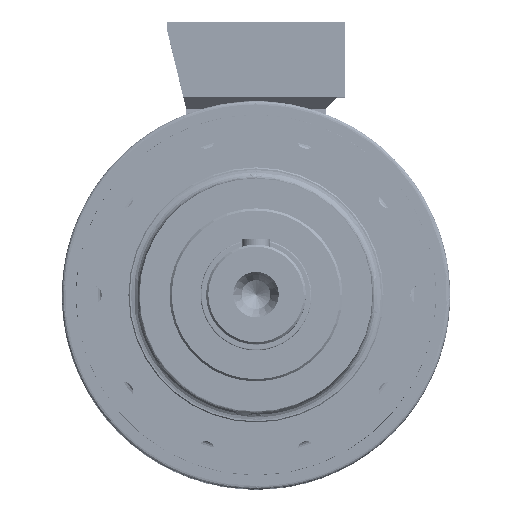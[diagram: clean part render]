
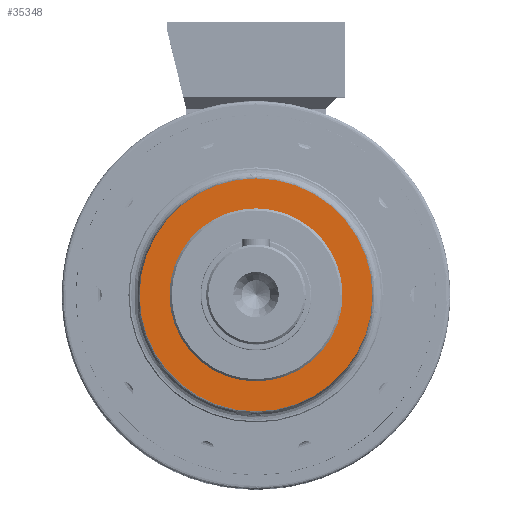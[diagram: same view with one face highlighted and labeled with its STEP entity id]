
A CAD part, top view. The second image highlights one B-rep face of the part: STEP entity #35348.
In plain terms, the highlighted planar face has unit normal (0, 0, 1).
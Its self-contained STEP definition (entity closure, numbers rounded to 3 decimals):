
#1173 = EDGE_CURVE ( 'NONE', #16508, #16466, #96875, .T. ) ;
#1205 = EDGE_CURVE ( 'NONE', #16430, #16487, #96987, .T. ) ;
#1456 = ORIENTED_EDGE ( 'NONE', *, *, #1173, .T. ) ;
#1486 = ORIENTED_EDGE ( 'NONE', *, *, #113242, .F. ) ;
#1535 = ORIENTED_EDGE ( 'NONE', *, *, #113151, .T. ) ;
#1546 = ORIENTED_EDGE ( 'NONE', *, *, #1205, .F. ) ;
#10984 = CIRCLE ( 'NONE', #136617, 78. ) ;
#11170 = CIRCLE ( 'NONE', #136647, 105. ) ;
#16430 = VERTEX_POINT ( 'NONE', #59236 ) ;
#16466 = VERTEX_POINT ( 'NONE', #59311 ) ;
#16487 = VERTEX_POINT ( 'NONE', #59316 ) ;
#16508 = VERTEX_POINT ( 'NONE', #59463 ) ;
#18848 = DIRECTION ( 'NONE',  ( 0., -1., 0. ) ) ;
#18858 = DIRECTION ( 'NONE',  ( 0., 0., 1. ) ) ;
#18870 = CARTESIAN_POINT ( 'NONE',  ( 0., 105., 181. ) ) ;
#18876 = PLANE ( 'NONE',  #81703 ) ;
#24760 = FACE_OUTER_BOUND ( 'NONE', #45144, .T. ) ;
#24764 = FACE_BOUND ( 'NONE', #45297, .T. ) ;
#28813 = DIRECTION ( 'NONE',  ( 0., 0., -1. ) ) ;
#28857 = CARTESIAN_POINT ( 'NONE',  ( 0., 0., 181. ) ) ;
#29120 = DIRECTION ( 'NONE',  ( 0., 1., 0. ) ) ;
#29460 = CARTESIAN_POINT ( 'NONE',  ( 0., 0., 181. ) ) ;
#29504 = DIRECTION ( 'NONE',  ( 0., 0., -1. ) ) ;
#29522 = DIRECTION ( 'NONE',  ( 0., 1., 0. ) ) ;
#35348 = ADVANCED_FACE ( 'NONE', ( #24760, #24764 ), #18876, .T. ) ;
#45144 = EDGE_LOOP ( 'NONE', ( #1486, #1546 ) ) ;
#45297 = EDGE_LOOP ( 'NONE', ( #1535, #1456 ) ) ;
#55134 = DIRECTION ( 'NONE',  ( 0., 1., 0. ) ) ;
#55186 = CARTESIAN_POINT ( 'NONE',  ( 0., 0., 181. ) ) ;
#55229 = DIRECTION ( 'NONE',  ( 0., 0., -1. ) ) ;
#56976 = DIRECTION ( 'NONE',  ( 0., 0., -1. ) ) ;
#56988 = DIRECTION ( 'NONE',  ( 0., 1., 0. ) ) ;
#56993 = CARTESIAN_POINT ( 'NONE',  ( 0., 0., 181. ) ) ;
#59236 = CARTESIAN_POINT ( 'NONE',  ( 0., -105., 181. ) ) ;
#59311 = CARTESIAN_POINT ( 'NONE',  ( 0., 78., 181. ) ) ;
#59316 = CARTESIAN_POINT ( 'NONE',  ( 0., 105., 181. ) ) ;
#59463 = CARTESIAN_POINT ( 'NONE',  ( 0., -78., 181. ) ) ;
#81703 = AXIS2_PLACEMENT_3D ( 'NONE', #18870, #18858, #18848 ) ;
#96875 = CIRCLE ( 'NONE', #174646, 78. ) ;
#96987 = CIRCLE ( 'NONE', #174795, 105. ) ;
#113151 = EDGE_CURVE ( 'NONE', #16466, #16508, #10984, .T. ) ;
#113242 = EDGE_CURVE ( 'NONE', #16487, #16430, #11170, .T. ) ;
#136617 = AXIS2_PLACEMENT_3D ( 'NONE', #28857, #28813, #29120 ) ;
#136647 = AXIS2_PLACEMENT_3D ( 'NONE', #29460, #29504, #29522 ) ;
#174646 = AXIS2_PLACEMENT_3D ( 'NONE', #56993, #56976, #56988 ) ;
#174795 = AXIS2_PLACEMENT_3D ( 'NONE', #55186, #55229, #55134 ) ;
